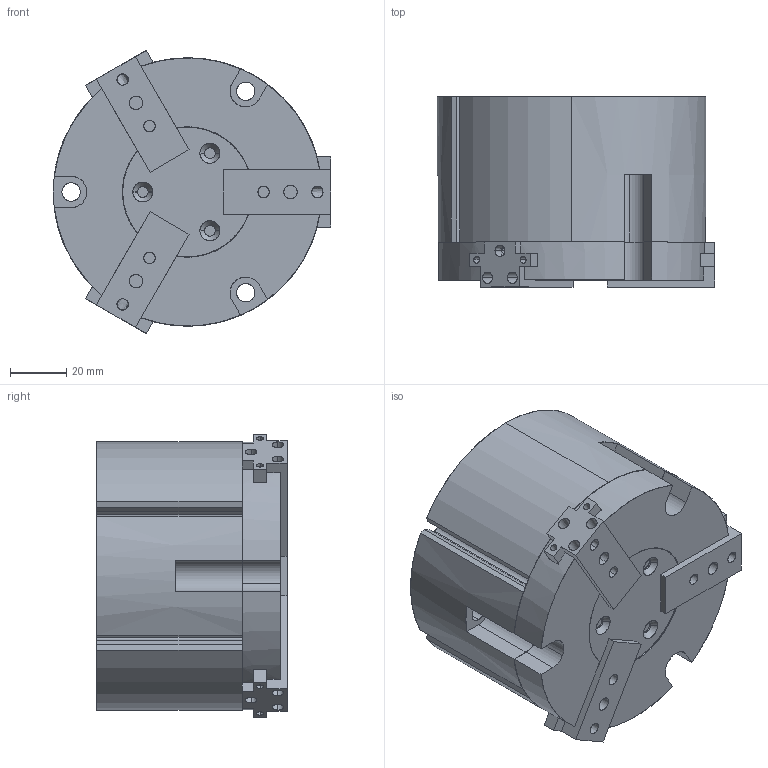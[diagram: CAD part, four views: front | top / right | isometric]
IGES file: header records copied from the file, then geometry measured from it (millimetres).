
Start section: SolidWorks IGES file using analytic representation for surfaces
Global section: file name: C:\Users\jmkuhnes\Pictures\My Transfers\AGP-63\AGP-63 CLOSED in IN.IGS; native system: SolidWorks 2013; preprocessor: SolidWorks 2013; author: jmkuhnes; date: 141105.083728; units: inch
Bounding box: 98.42 x 67.54 x 100.43 mm (x, y, z)
Surface area: 79800.3 mm2 (no closed solid volume)
Topology: 0 solids, 0 shells, 340 faces, 5069 edges, 5035 vertices
Faces by surface type: revolution 189, bspline 151
